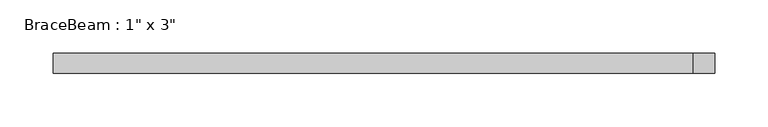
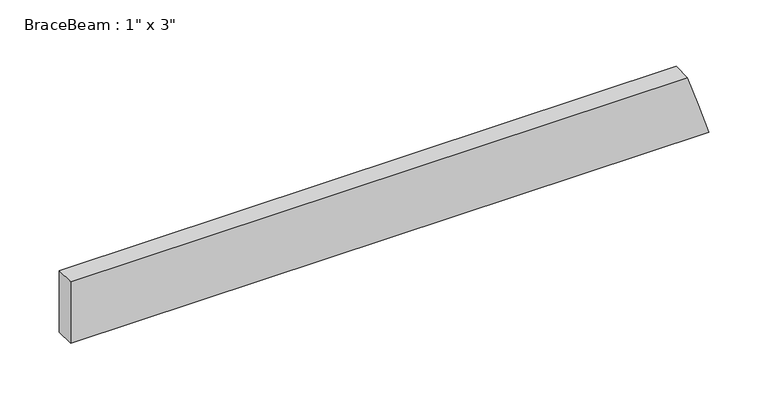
"""IFC4 building model written with IfcOpenShell, lengths in millimetres: beam geometry."""

from ifc_helpers import new_model, si_unit, origin, place, context, project, spatial, faceted_brep, source, transform, mapped, element, save


def beam_a14fae22(model_context):
    return source(origin(), model_context, "Body", "Brep", [
        faceted_brep([(-306.59054, -9.525, -31.75), (-306.59054, 9.525, -31.75), (315.3050174, 9.525, -31.75), (315.3050174, -9.525, -31.75), (-306.59054, 9.525, 31.75), (294.579323, 9.525, 31.75), (304.9421702, 9.525, 0.0), (-306.59054, -9.525, 31.75), (294.579323, -9.525, 31.75), (304.9421702, -9.525, 0.0)], [[[0, 1, 2, 3]], [[1, 4, 5, 6, 2]], [[4, 7, 8, 5]], [[7, 0, 3, 9, 8]], [[7, 4, 1, 0]], [[5, 8, 9, 3, 2, 6]]]),
    ])


if __name__ == "__main__":
    model = new_model("IFC4")
    model_context = context("Model", 3, world=origin())
    ifc_project = project(units=[si_unit("LENGTHUNIT", "METRE", prefix="MILLI")], contexts=[model_context])
    site = spatial("IfcSite", under=ifc_project)
    building = spatial("IfcBuilding", under=site)
    placement = place(None, origin())
    beam_shape = beam_a14fae22(model_context)
    element("IfcBeam", 1, ObjectType="BraceBeam : 1\" x 3\"", at=placement, inside=building, context=model_context, shape_type="MappedRepresentation", body=[
        mapped(beam_shape, transform((0.0, 0.0, 0.0), x_axis=(1.0, 0.0, 0.0), y_axis=(0.0, 1.0, 0.0), z_axis=(0.0, 0.0, 1.0))),
    ])
    save(model, "model.ifc")
